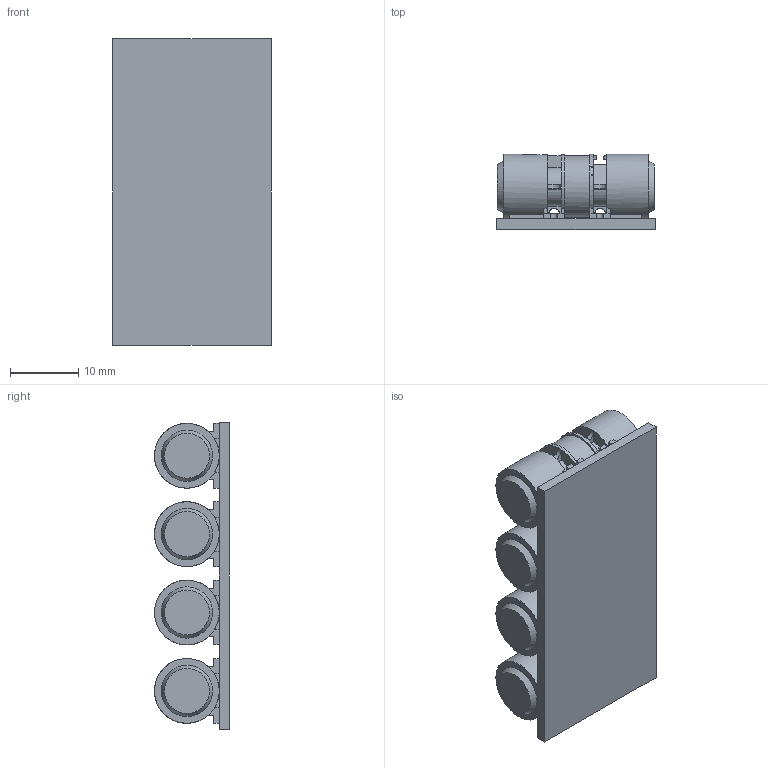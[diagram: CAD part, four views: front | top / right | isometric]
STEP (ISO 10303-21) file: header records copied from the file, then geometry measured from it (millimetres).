
FILE_DESCRIPTION(/* description */ (''),/* implementation_level */ '2;1');
FILE_NAME(/* name */ '4x drake (4x1).step',/* time_stamp */ '2023-06-07T13:37:01-04:00',/* author */ (''),/* organization */ (''),/* preprocessor_version */ 'ST-DEVELOPER v19.2',/* originating_system */ 'Autodesk Translation Framework v12.6.0.85',/* authorisation */ '');
FILE_SCHEMA (('AUTOMOTIVE_DESIGN { 1 0 10303 214 3 1 1 }'));
Length unit declared in the file: millimetre
Products named in the file (7): 4x drake (4x1); TacHammer - Drake Volume; Component1; TacHammer - Drake Volume_1; TacHammer - Drake Volume_2; TacHammer - Drake Volume_3; Volume_Env
Assembly tree (9 placements, depth 3):
  4x drake (4x1)
    TacHammer - Drake Volume
      Volume_Env
    Component1
    TacHammer - Drake Volume_1
      Volume_Env
    TacHammer - Drake Volume_2
      Volume_Env
    TacHammer - Drake Volume_3
      Volume_Env
Bounding box: 23.2 x 11 x 45 mm (x, y, z)
Volume: 7245.6 mm3; surface area: 6614.8 mm2
Topology: 5 solids, 5 shells, 710 faces, 1944 edges, 1256 vertices
Faces by surface type: plane 498, cylinder 196, cone 8, torus 8
Full cylindrical faces by diameter (mm): 9 x4, 9.5 x8
Entity records: 5962 total; most frequent: CARTESIAN_POINT 1032, DIRECTION 1021, ORIENTED_EDGE 990, EDGE_CURVE 495, LINE 363, VECTOR 363, AXIS2_PLACEMENT_3D 329, VERTEX_POINT 320
